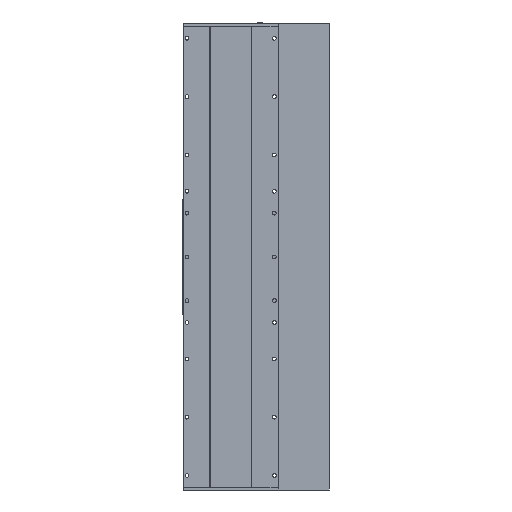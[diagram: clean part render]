
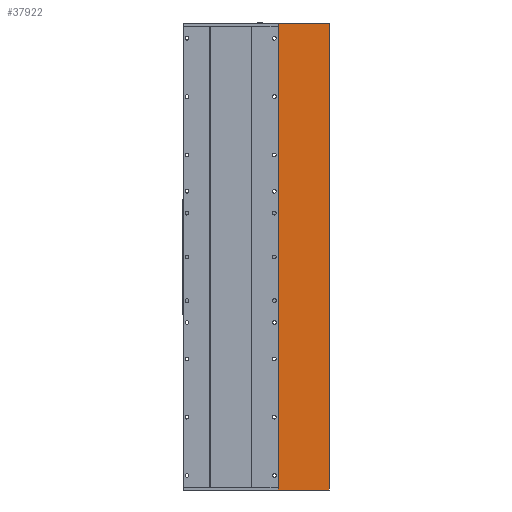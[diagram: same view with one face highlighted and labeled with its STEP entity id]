
A CAD part, front view. The second image highlights one B-rep face of the part: STEP entity #37922.
In plain terms, the highlighted planar face has unit normal (0, -1, 0) as drawn and (1, 0, 0) by its records, which use the part's own axes.
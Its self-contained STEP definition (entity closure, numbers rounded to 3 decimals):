
#18055=DIRECTION('',(0.,1.,0.));
#18056=VECTOR('',#18055,88.);
#18057=CARTESIAN_POINT('',(33.75,0.,-400.));
#18058=LINE('',#18057,#18056);
#18111=DIRECTION('',(0.,1.,0.));
#18112=VECTOR('',#18111,88.);
#18113=CARTESIAN_POINT('',(33.75,0.,400.));
#18114=LINE('',#18113,#18112);
#18146=DIRECTION('',(0.,0.,1.));
#18147=VECTOR('',#18146,800.);
#18148=CARTESIAN_POINT('',(33.75,88.,-400.));
#18149=LINE('',#18148,#18147);
#23207=DIRECTION('',(0.,0.,1.));
#23208=VECTOR('',#23207,800.);
#23209=CARTESIAN_POINT('',(33.75,0.,-400.));
#23210=LINE('',#23209,#23208);
#33329=CARTESIAN_POINT('',(33.75,0.,-400.));
#33330=CARTESIAN_POINT('',(33.75,88.,-400.));
#33331=VERTEX_POINT('',#33329);
#33332=VERTEX_POINT('',#33330);
#33335=CARTESIAN_POINT('',(33.75,0.,400.));
#33336=CARTESIAN_POINT('',(33.75,88.,400.));
#33337=VERTEX_POINT('',#33335);
#33338=VERTEX_POINT('',#33336);
#37910=CARTESIAN_POINT('',(33.75,0.,-400.));
#37911=DIRECTION('',(1.,0.,0.));
#37912=DIRECTION('',(0.,1.,0.));
#37913=AXIS2_PLACEMENT_3D('',#37910,#37911,#37912);
#37914=PLANE('',#37913);
#37915=ORIENTED_EDGE('',*,*,#36250,.F.);
#37917=ORIENTED_EDGE('',*,*,#37916,.T.);
#37918=ORIENTED_EDGE('',*,*,#36288,.T.);
#37919=ORIENTED_EDGE('',*,*,#36327,.F.);
#37920=EDGE_LOOP('',(#37915,#37917,#37918,#37919));
#37921=FACE_OUTER_BOUND('',#37920,.F.);
#36250=EDGE_CURVE('',#33331,#33332,#18058,.T.);
#36288=EDGE_CURVE('',#33337,#33338,#18114,.T.);
#36327=EDGE_CURVE('',#33332,#33338,#18149,.T.);
#37916=EDGE_CURVE('',#33331,#33337,#23210,.T.);
#37922=ADVANCED_FACE('',(#37921),#37914,.T.);
